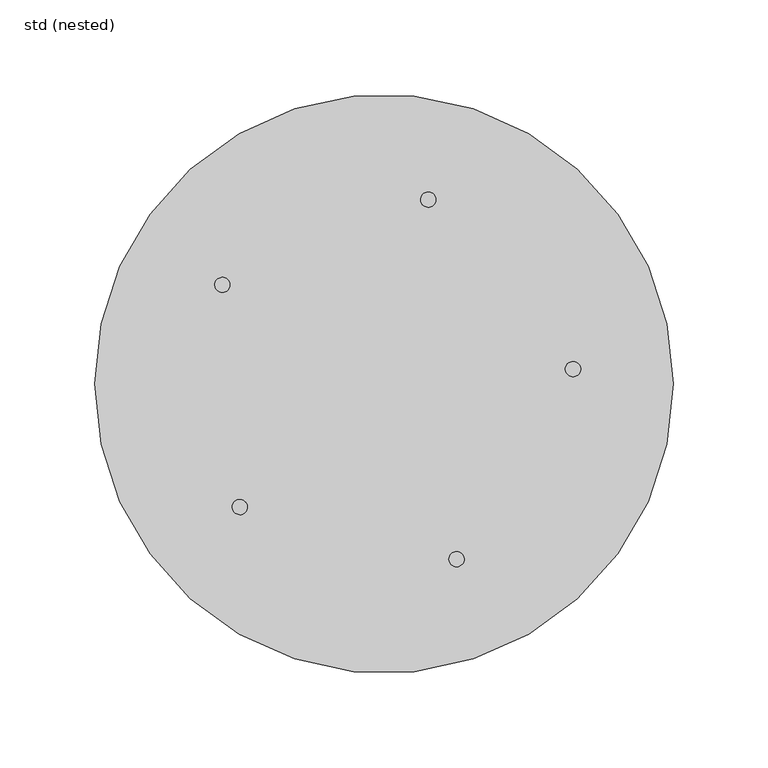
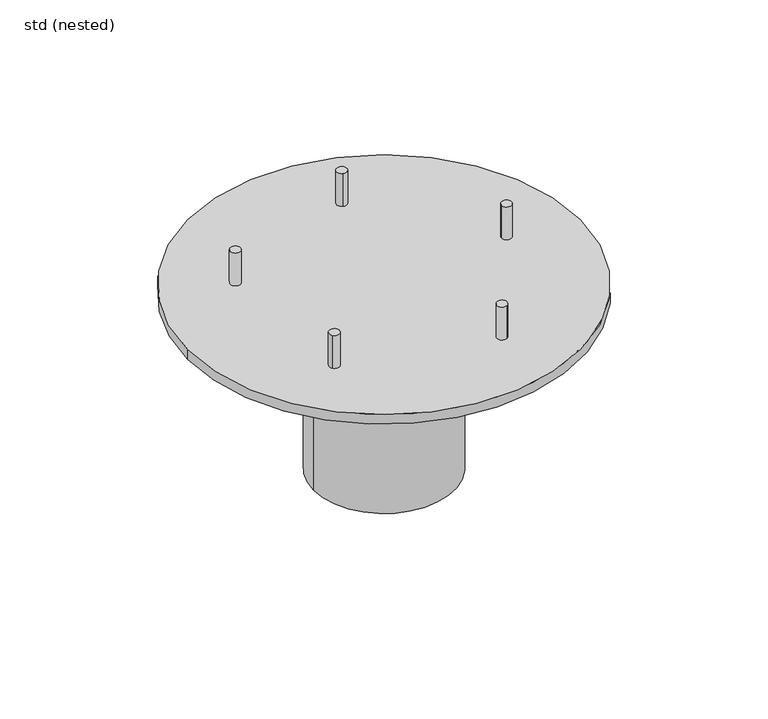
"""IFC4 building model written with IfcOpenShell, lengths in millimetres: sanitary terminal geometry, ZZZ_do not use_PF_CI_upper part for Passavant Spin_ACO : std (nested)."""

from ifc_helpers import new_model, si_unit, point, frame, frame_2d, origin, origin_with_axes, origin_2d, place, context, project, spatial, circle_curve, trimmed, segment, composite_curve, outline, extrude, source, transform, mapped, element, save
from ifc_brep_helpers import plane_surface, cylinder_surface, advanced_brep


def std_nested_05051040(model_context):
    return source(origin(), model_context, "Body", "SolidModel", [
        extrude(outline(composite_curve([segment(trimmed(circle_curve(frame_2d((-85.2640164, 52.2498565)), 4.0), [point((-88.6745771, 54.3398507))], [point((-81.8534558, 50.1598622))], False, "CARTESIAN"), True, "CONTINUOUS"), segment(trimmed(circle_curve(frame_2d((-85.2640164, 52.2498565)), 4.0), [point((-81.8534558, 50.1598622))], [point((-88.6745771, 54.3398507))], False, "CARTESIAN"), True, "CONTINUOUS")], self_intersect=False)), origin_with_axes(), (0.0, 0.0, 1.0), 27.0),
        extrude(outline(composite_curve([segment(trimmed(circle_curve(frame_2d((-76.0405966, -64.9448048)), 4.0), [point((-79.0822204, -67.542597))], [point((-72.9989727, -62.3470126))], False, "CARTESIAN"), True, "CONTINUOUS"), segment(trimmed(circle_curve(frame_2d((-76.0405966, -64.9448048)), 4.0), [point((-72.9989727, -62.3470126))], [point((-79.0822204, -67.542597))], False, "CARTESIAN"), True, "CONTINUOUS")], self_intersect=False)), origin_with_axes(), (0.0, 0.0, 1.0), 27.0),
        extrude(outline(composite_curve([segment(trimmed(circle_curve(frame_2d((38.2683432, -92.3879533)), 4.0), [point((39.799077, -96.0834714))], [point((36.7376095, -88.6924351))], False, "CARTESIAN"), True, "CONTINUOUS"), segment(trimmed(circle_curve(frame_2d((38.2683432, -92.3879533)), 4.0), [point((36.7376095, -88.6924351))], [point((39.799077, -96.0834714))], False, "CARTESIAN"), True, "CONTINUOUS")], self_intersect=False)), origin_with_axes(), (0.0, 0.0, 1.0), 27.0),
        extrude(outline(composite_curve([segment(trimmed(circle_curve(frame_2d((99.6917334, 7.8459096)), 4.0), [point((103.6794027, 8.159746))], [point((95.704064, 7.5320732))], False, "CARTESIAN"), True, "CONTINUOUS"), segment(trimmed(circle_curve(frame_2d((99.6917334, 7.8459096)), 4.0), [point((95.704064, 7.5320732))], [point((103.6794027, 8.159746))], False, "CARTESIAN"), True, "CONTINUOUS")], self_intersect=False)), origin_with_axes(), (0.0, 0.0, 1.0), 27.0),
        extrude(outline(composite_curve([segment(trimmed(circle_curve(frame_2d((23.3445364, 97.236992)), 4.0), [point((24.2783178, 101.1264717))], [point((22.4107549, 93.3475124))], False, "CARTESIAN"), True, "CONTINUOUS"), segment(trimmed(circle_curve(frame_2d((23.3445364, 97.236992)), 4.0), [point((22.4107549, 93.3475124))], [point((24.2783178, 101.1264717))], False, "CARTESIAN"), True, "CONTINUOUS")], self_intersect=False)), origin_with_axes(), (0.0, 0.0, 1.0), 27.0),
        extrude(outline(composite_curve([segment(trimmed(circle_curve(origin_2d(), 54.5), [point((-54.5, 0.0))], [point((54.5, 0.0))], False, "CARTESIAN"), True, "CONTINUOUS"), segment(trimmed(circle_curve(origin_2d(), 54.5), [point((54.5, 0.0))], [point((-54.5, 0.0))], False, "CARTESIAN"), True, "CONTINUOUS")], self_intersect=False)), frame((0.0, 0.0, -150.0), z_axis=(0.0, 0.0, 1.0), x_axis=(1.0, 0.0, 0.0)), (0.0, 0.0, 1.0), 95.0),
        advanced_brep(
        [(0.0, -63.5, -55.0), (0.0, 63.5, -55.0), (0.0, 63.5, -8.0), (0.0, -63.5, -8.0), (-152.5, 0.0, -8.0), (152.5, 0.0, -8.0), (-152.5, 0.0, 0.0), (152.5, 0.0, 0.0)],
        [
            (0, 1, circle_curve(frame((0.0, 0.0, -55.0), z_axis=(0.0, 0.0, -1.0), x_axis=(0.0, 1.0, 0.0)), 63.5)),
            (1, 0, circle_curve(frame((0.0, 0.0, -55.0), z_axis=(0.0, 0.0, -1.0), x_axis=(0.0, 1.0, 0.0)), 63.5)),
            (1, 2),
            (2, 3, circle_curve(frame((0.0, 0.0, -8.0), z_axis=(0.0, 0.0, -1.0), x_axis=(0.0, 1.0, 0.0)), 63.5)),
            (3, 0),
            (3, 2, circle_curve(frame((0.0, 0.0, -8.0), z_axis=(0.0, 0.0, -1.0), x_axis=(0.0, 1.0, 0.0)), 63.5)),
            (4, 5, circle_curve(frame((0.0, 0.0, -8.0), z_axis=(0.0, 0.0, -1.0), x_axis=(1.0, 0.0, 0.0)), 152.5)),
            (5, 4, circle_curve(frame((0.0, 0.0, -8.0), z_axis=(0.0, 0.0, -1.0), x_axis=(1.0, 0.0, 0.0)), 152.5)),
            (6, 7, circle_curve(origin_with_axes(), 152.5)),
            (7, 6, circle_curve(origin_with_axes(), 152.5)),
            (5, 7),
            (6, 4),
        ],
        [
            plane_surface(frame((0.0, 63.5, -55.0), z_axis=(0.0, 0.0, -1.0), x_axis=(1.0, 0.0, 0.0))),
            cylinder_surface(frame((0.0, 0.0, -55.0), z_axis=(0.0, 0.0, 1.0), x_axis=(0.0, 1.0, 0.0)), 63.5),
            plane_surface(frame((152.5, 0.0, -8.0), z_axis=(0.0, 0.0, -1.0), x_axis=(0.0, -1.0, 0.0))),
            plane_surface(frame((152.5, 0.0, 0.0), z_axis=(0.0, 0.0, 1.0), x_axis=(0.0, 1.0, 0.0))),
            cylinder_surface(frame((0.0, 0.0, -8.0), z_axis=(0.0, 0.0, 1.0), x_axis=(1.0, 0.0, 0.0)), 152.5),
        ],
        [
            (0, [[1, 2]]),
            (1, [[-2, 3, 4, 5]]),
            (1, [[-1, -5, 6, -3]]),
            (2, [[7, 8], [-4, -6]]),
            (3, [[9, 10]]),
            (4, [[-8, 11, -9, 12]]),
            (4, [[-7, -12, -10, -11]]),
        ],
    ),
    ])


if __name__ == "__main__":
    model = new_model("IFC4")
    model_context = context("Model", 3, world=origin())
    ifc_project = project(units=[si_unit("LENGTHUNIT", "METRE", prefix="MILLI")], contexts=[model_context])
    site = spatial("IfcSite", under=ifc_project)
    building = spatial("IfcBuilding", under=site)
    placement = place(None, origin())
    std_nested_shape = std_nested_05051040(model_context)
    element("IfcSanitaryTerminal", 1, ObjectType="ZZZ_do not use_PF_CI_upper part for Passavant Spin_ACO : std (nested)", at=placement, inside=building, context=model_context, shape_type="MappedRepresentation", body=[
        mapped(std_nested_shape, transform((0.0, 0.0, 0.0), x_axis=(1.0, 0.0, 0.0), y_axis=(0.0, 1.0, 0.0), z_axis=(0.0, 0.0, 1.0))),
    ])
    save(model, "model.ifc")
